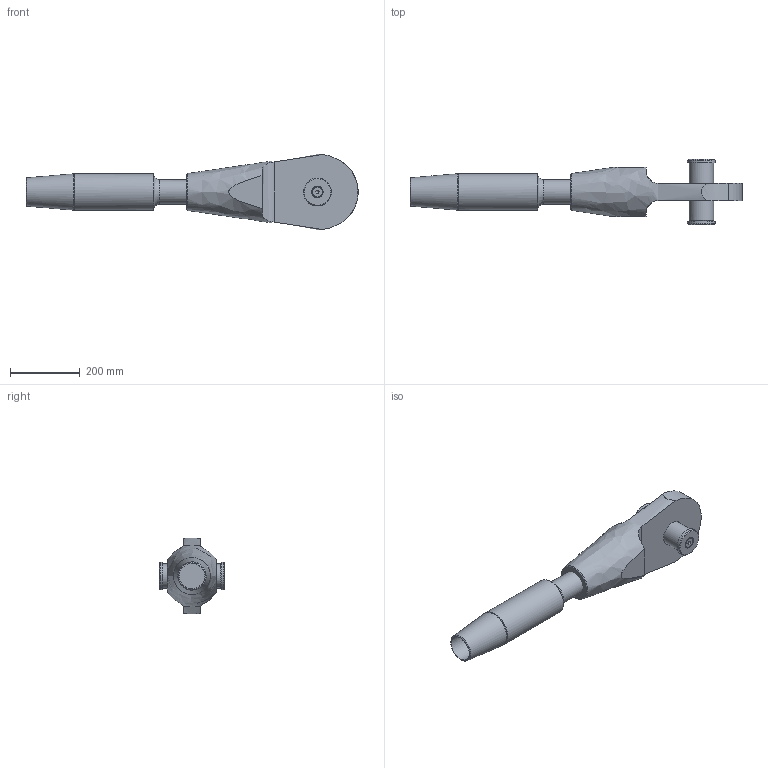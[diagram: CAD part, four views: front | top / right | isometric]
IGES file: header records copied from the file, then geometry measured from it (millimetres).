
Global section: file name: 520-070-OES-ADA; native system: Autodesk Inventor 2020; preprocessor: unknown; author: Administrator; date: 20201007.154217; units: millimetre
Bounding box: 953.72 x 187.3 x 217.09 mm (x, y, z)
Volume: 9714166.3 mm3; surface area: 530972.6 mm2
Topology: 6 solids, 6 shells, 57 faces, 136 edges, 94 vertices
Faces by surface type: bspline 57
